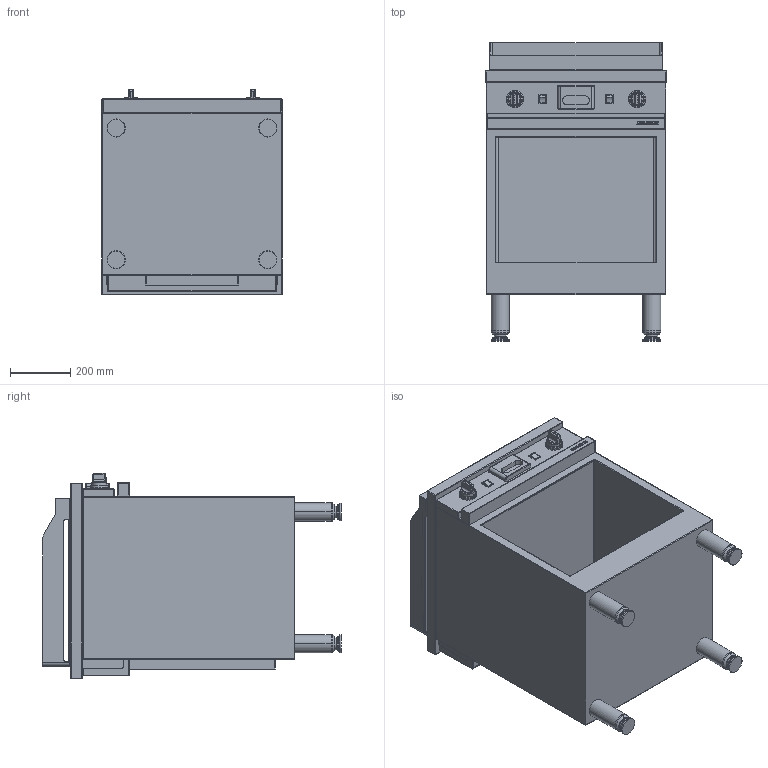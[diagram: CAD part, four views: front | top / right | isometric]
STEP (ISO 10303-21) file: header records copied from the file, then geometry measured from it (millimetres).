
FILE_DESCRIPTION((''),'2;1');
FILE_NAME('CME610SLK_EXPORT_STEP_ASM','2017-11-22T',('r.avril'),(''),'PRO/ENGINEER BY PARAMETRIC TECHNOLOGY CORPORATION, 2014200','PRO/ENGINEER BY PARAMETRIC TECHNOLOGY CORPORATION, 2014200','');
FILE_SCHEMA(('AP203_CONFIGURATION_CONTROLLED_3D_DESIGN_OF_MECHANICAL_PARTS_AND_ASSEMBLIES_MIM_LF { 1 0 10303 403 2 1 2 }'));
Length unit declared in the file: millimetre
Products named in the file (10): MODULES_AMB_600_EXPORT_STEP; TABLE_610_GRILLADE; TABLE_610_GRILLADE_ASM; TIROIR_GRILLADE_EXPORT_STEP; MANETTE_AMB_EXPORT_STEP; BASCULEUR_AMB_EXPORT_DXF; 50288800; 50293100; 65070003_ASM; CME610SLK_EXPORT_STEP_ASM
Assembly tree (11 placements, depth 3):
  CME610SLK_EXPORT_STEP_ASM
    MODULES_AMB_600_EXPORT_STEP
    TABLE_610_GRILLADE_ASM
      TABLE_610_GRILLADE
    TIROIR_GRILLADE_EXPORT_STEP
    MANETTE_AMB_EXPORT_STEP  x2
    BASCULEUR_AMB_EXPORT_DXF  x2
    65070003_ASM
      50288800
      50293100
Bounding box: 600 x 992.43 x 682.5 mm (x, y, z)
Volume: 81960614.3 mm3; surface area: 6103107.5 mm2
Topology: 17 solids, 43 shells, 627 faces, 2077 edges, 1758 vertices
Faces by surface type: cylinder 233, plane 220, cone 54, sphere 48, torus 48, bspline 24
Entity records: 28003 total; most frequent: CARTESIAN_POINT 6489, DIRECTION 3476, ORIENTED_EDGE 2856, EDGE_CURVE 1669, AXIS2_PLACEMENT_3D 1248, VERTEX_POINT 1187, VECTOR 950, LINE 950
